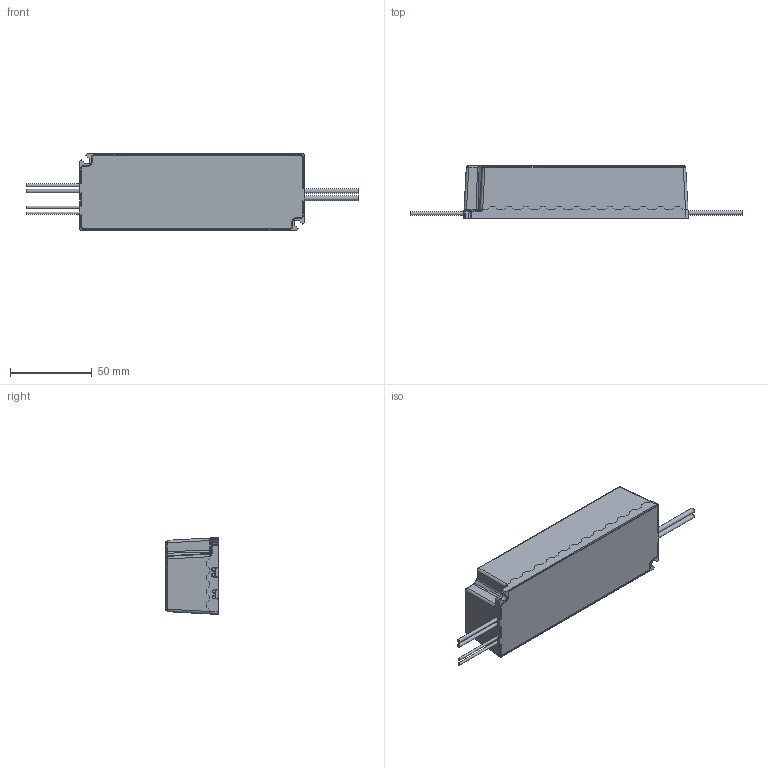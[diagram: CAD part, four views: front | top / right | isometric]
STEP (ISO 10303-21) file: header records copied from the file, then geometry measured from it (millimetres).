
FILE_DESCRIPTION (( 'STEP AP214' ), '1' );
FILE_NAME ('HCH-SAW48-010.STEP', '2015-07-16T15:47:01', ( '' ), ( '' ), 'SwSTEP 2.0', 'SolidWorks 2015', '' );
FILE_SCHEMA (( 'AUTOMOTIVE_DESIGN' ));
Length unit declared in the file: inch
Products named in the file (1): HCH-SAW48-010
Bounding box: 203.2 x 31.95 x 46.99 mm (x, y, z)
Volume: 46227.6 mm3; surface area: 49805.1 mm2
Topology: 8 solids, 8 shells, 822 faces, 2102 edges, 1276 vertices
Faces by surface type: cylinder 307, plane 304, bspline 157, sphere 40, torus 8, cone 6
Full cylindrical faces by diameter (mm): 1.524 x2, 1.981 x2, 2.794 x2
Entity records: 28878 total; most frequent: CARTESIAN_POINT 9577, ORIENTED_EDGE 4104, DIRECTION 3319, EDGE_CURVE 2052, VERTEX_POINT 1276, VECTOR 1189, LINE 1189, AXIS2_PLACEMENT_3D 1065
